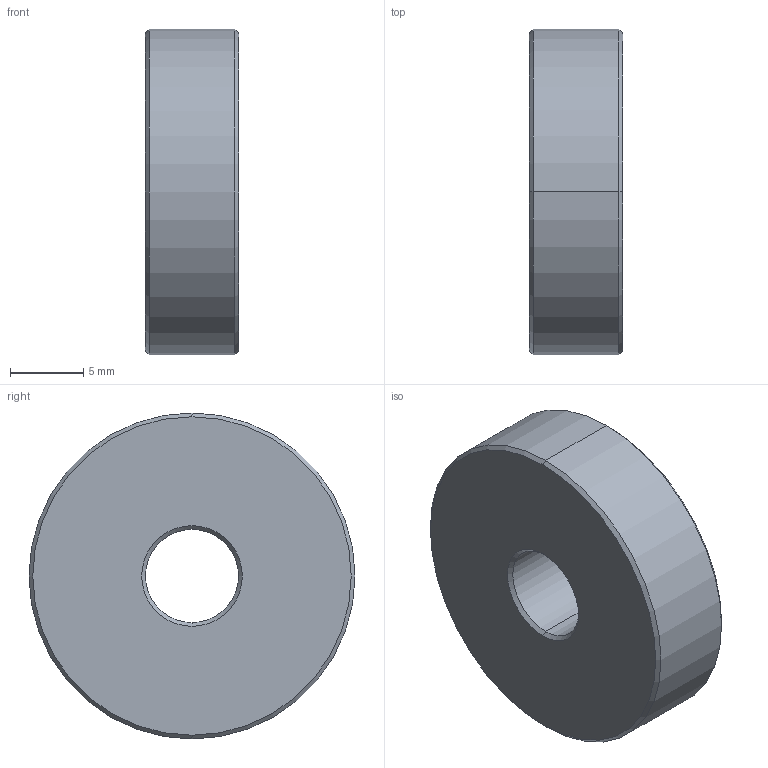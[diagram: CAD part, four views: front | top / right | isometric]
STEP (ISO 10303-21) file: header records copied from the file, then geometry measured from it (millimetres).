
FILE_DESCRIPTION (( 'STEP AP214' ), '1' );
FILE_NAME ('DRP-002-0555-00.STEP', '2013-12-20T17:41:26', ( 'ydmin' ), ( 'Microsoft' ), 'SwSTEP 2.0', 'SolidWorks 2013', '' );
FILE_SCHEMA (( 'AUTOMOTIVE_DESIGN' ));
Length unit declared in the file: inch
Products named in the file (1): DRP-002-0555-00
Bounding box: 6.35 x 22.23 x 22.23 mm (x, y, z)
Volume: 2256.6 mm3; surface area: 1255.9 mm2
Topology: 1 solids, 1 shells, 14 faces, 28 edges, 16 vertices
Faces by surface type: cone 8, cylinder 4, plane 2
Entity records: 590 total; most frequent: DIRECTION 74, CARTESIAN_POINT 59, ORIENTED_EDGE 56, AXIS2_PLACEMENT_3D 31, EDGE_CURVE 28, LENGTH_MEASURE_WITH_UNIT 17, UNCERTAINTY_MEASURE_WITH_UNIT 17, DIMENSIONAL_EXPONENTS 17
